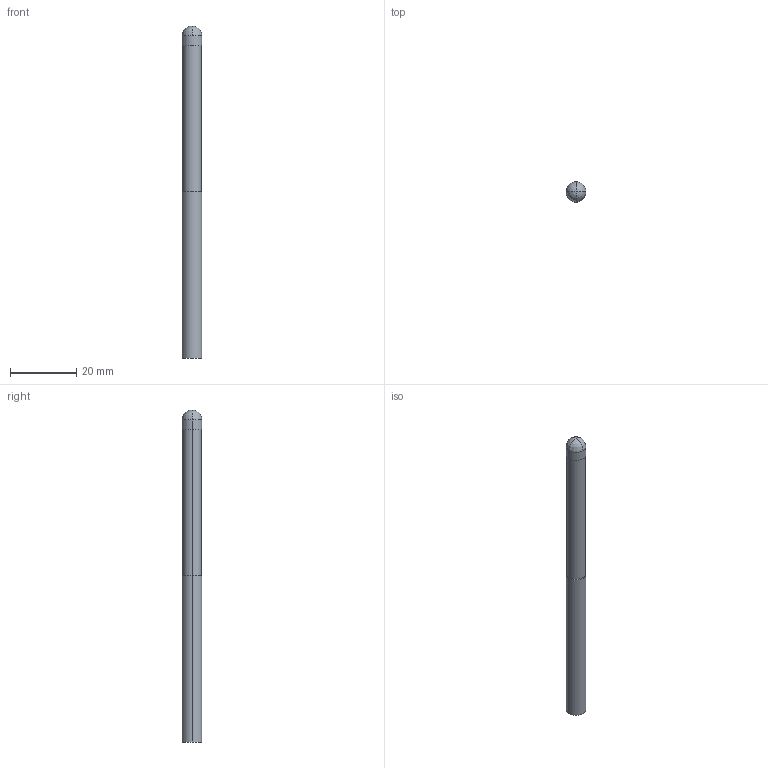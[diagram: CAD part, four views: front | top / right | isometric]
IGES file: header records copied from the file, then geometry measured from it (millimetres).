
Start section: 3D InterOp IGES (v. 2020 1.0.1), Spatial Corp. Copyright (c) 1999-2017.
Global section: file name: WZF18428_6.igs; native system: Spatial Corp.; preprocessor: 3D InterOp GENERIC/IGES 3.0; author: Noname; organization: Noname; date: 20201007.092933; units: metre
Bounding box: 6 x 6 x 99.99 mm (x, y, z)
Surface area: 1877.1 mm2 (no closed solid volume)
Topology: 0 solids, 0 shells, 14 faces, 74 edges, 61 vertices
Faces by surface type: revolution 10, extrusion 4
